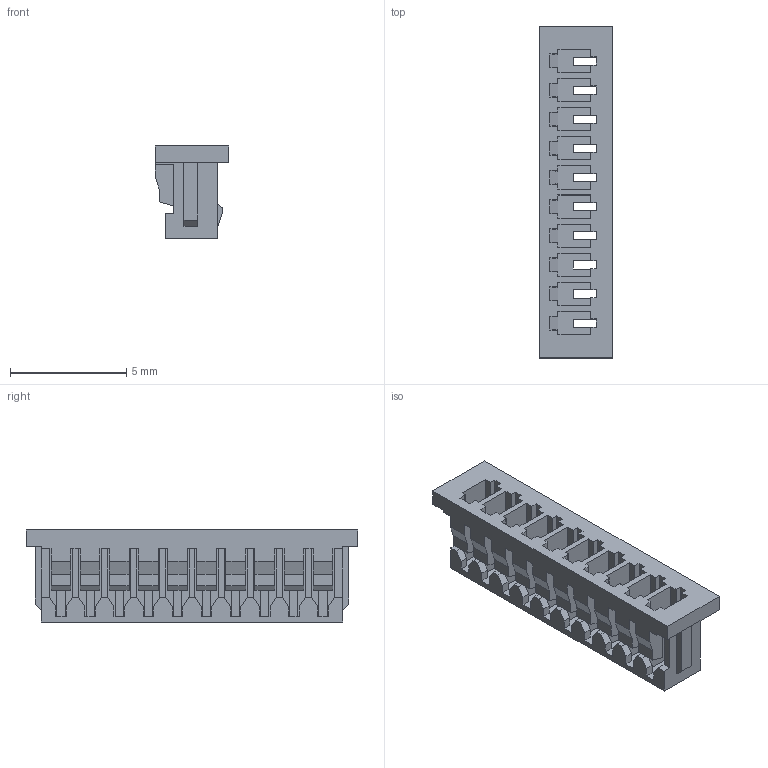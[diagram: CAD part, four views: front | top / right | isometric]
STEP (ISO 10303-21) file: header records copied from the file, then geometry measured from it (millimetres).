
FILE_DESCRIPTION (( 'STEP AP214' ), '1' );
FILE_NAME ('HSG 10P.STEP', '2022-03-27T04:00:32', ( '微软用户' ), ( '微软中国' ), 'SwSTEP 2.0', 'SolidWorks 2018', '' );
FILE_SCHEMA (( 'AUTOMOTIVE_DESIGN' ));
Length unit declared in the file: millimetre
Products named in the file (2): HSG 10P
Bounding box: 3.15 x 14.25 x 3.95 mm (x, y, z)
Volume: 64.8 mm3; surface area: 430.6 mm2
Topology: 1 solids, 1 shells, 413 faces, 1217 edges, 778 vertices
Faces by surface type: plane 370, cylinder 43
Entity records: 13724 total; most frequent: CARTESIAN_POINT 2884, ORIENTED_EDGE 2434, DIRECTION 1955, EDGE_CURVE 1217, LINE 1073, VECTOR 1073, VERTEX_POINT 778, AXIS2_PLACEMENT_3D 441
